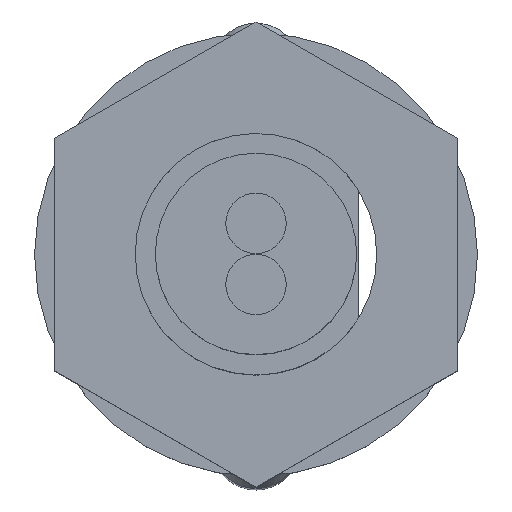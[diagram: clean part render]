
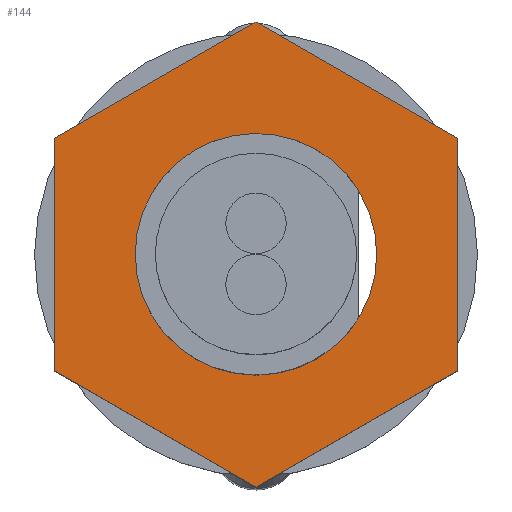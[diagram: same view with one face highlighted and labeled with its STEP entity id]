
A CAD part, top view. The second image highlights one B-rep face of the part: STEP entity #144.
In plain terms, the highlighted planar face has unit normal (0, 0, 1) as drawn and (-1, 0, 0) by its records, which use the part's own axes.
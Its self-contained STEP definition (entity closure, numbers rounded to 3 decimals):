
#125 = EDGE_CURVE ( 'NONE', #137, #126, #731, .T. ) ;
#126 = VERTEX_POINT ( 'NONE', #732 ) ;
#132 = ORIENTED_EDGE ( 'NONE', *, *, #133, .T. ) ;
#133 = EDGE_CURVE ( 'NONE', #134, #135, #786, .T. ) ;
#134 = VERTEX_POINT ( 'NONE', #782 ) ;
#135 = VERTEX_POINT ( 'NONE', #781 ) ;
#137 = VERTEX_POINT ( 'NONE', #780 ) ;
#144 = ADVANCED_FACE ( 'NONE', ( #764, #763 ), #762, .F. ) ;
#145 = EDGE_LOOP ( 'NONE', ( #132, #198, #201, #204, #186, #189 ) ) ;
#184 = EDGE_CURVE ( 'NONE', #203, #185, #892, .T. ) ;
#185 = VERTEX_POINT ( 'NONE', #888 ) ;
#186 = ORIENTED_EDGE ( 'NONE', *, *, #187, .T. ) ;
#187 = EDGE_CURVE ( 'NONE', #185, #188, #887, .T. ) ;
#188 = VERTEX_POINT ( 'NONE', #883 ) ;
#189 = ORIENTED_EDGE ( 'NONE', *, *, #190, .T. ) ;
#190 = EDGE_CURVE ( 'NONE', #188, #134, #882, .T. ) ;
#191 = EDGE_LOOP ( 'NONE', ( #192, #193 ) ) ;
#192 = ORIENTED_EDGE ( 'NONE', *, *, #125, .F. ) ;
#193 = ORIENTED_EDGE ( 'NONE', *, *, #194, .F. ) ;
#194 = EDGE_CURVE ( 'NONE', #126, #137, #878, .T. ) ;
#198 = ORIENTED_EDGE ( 'NONE', *, *, #199, .T. ) ;
#199 = EDGE_CURVE ( 'NONE', #135, #200, #866, .T. ) ;
#200 = VERTEX_POINT ( 'NONE', #860 ) ;
#201 = ORIENTED_EDGE ( 'NONE', *, *, #202, .T. ) ;
#202 = EDGE_CURVE ( 'NONE', #200, #203, #925, .T. ) ;
#203 = VERTEX_POINT ( 'NONE', #921 ) ;
#204 = ORIENTED_EDGE ( 'NONE', *, *, #184, .T. ) ;
#727 = DIRECTION ( 'NONE',  ( 0., -1., 0. ) ) ;
#728 = DIRECTION ( 'NONE',  ( -1., 0., 0. ) ) ;
#729 = CARTESIAN_POINT ( 'NONE',  ( 8., 0., 0. ) ) ;
#730 = AXIS2_PLACEMENT_3D ( 'NONE', #729, #728, #727 ) ;
#731 = CIRCLE ( 'NONE', #730, 3. ) ;
#732 = CARTESIAN_POINT ( 'NONE',  ( 8., -3., 0. ) ) ;
#760 = CARTESIAN_POINT ( 'NONE',  ( 8., 0., 10. ) ) ;
#761 = AXIS2_PLACEMENT_3D ( 'NONE', #760, #825, #824 ) ;
#762 = PLANE ( 'NONE',  #761 ) ;
#763 = FACE_BOUND ( 'NONE', #191, .T. ) ;
#764 = FACE_OUTER_BOUND ( 'NONE', #145, .T. ) ;
#780 = CARTESIAN_POINT ( 'NONE',  ( 8., 3., 0. ) ) ;
#781 = CARTESIAN_POINT ( 'NONE',  ( 8., 5.774, 0. ) ) ;
#782 = CARTESIAN_POINT ( 'NONE',  ( 8., 2.887, 5. ) ) ;
#783 = DIRECTION ( 'NONE',  ( 0., 0.5, -0.866 ) ) ;
#784 = VECTOR ( 'NONE', #783, 1000. ) ;
#785 = CARTESIAN_POINT ( 'NONE',  ( 8., 2.887, 5. ) ) ;
#786 = LINE ( 'NONE', #785, #784 ) ;
#824 = DIRECTION ( 'NONE',  ( 0., 1., 0. ) ) ;
#825 = DIRECTION ( 'NONE',  ( 1., 0., 0. ) ) ;
#860 = CARTESIAN_POINT ( 'NONE',  ( 8., 2.887, -5. ) ) ;
#863 = DIRECTION ( 'NONE',  ( 0., -0.5, -0.866 ) ) ;
#864 = VECTOR ( 'NONE', #863, 1000. ) ;
#865 = CARTESIAN_POINT ( 'NONE',  ( 8., 5.774, 0. ) ) ;
#866 = LINE ( 'NONE', #865, #864 ) ;
#874 = DIRECTION ( 'NONE',  ( 0., -1., 0. ) ) ;
#875 = DIRECTION ( 'NONE',  ( -1., 0., 0. ) ) ;
#876 = CARTESIAN_POINT ( 'NONE',  ( 8., 0., 0. ) ) ;
#877 = AXIS2_PLACEMENT_3D ( 'NONE', #876, #875, #874 ) ;
#878 = CIRCLE ( 'NONE', #877, 3. ) ;
#879 = DIRECTION ( 'NONE',  ( 0., 1., 0. ) ) ;
#880 = VECTOR ( 'NONE', #879, 1000. ) ;
#881 = CARTESIAN_POINT ( 'NONE',  ( 8., -2.887, 5. ) ) ;
#882 = LINE ( 'NONE', #881, #880 ) ;
#883 = CARTESIAN_POINT ( 'NONE',  ( 8., -2.887, 5. ) ) ;
#884 = DIRECTION ( 'NONE',  ( 0., 0.5, 0.866 ) ) ;
#885 = VECTOR ( 'NONE', #884, 1000. ) ;
#886 = CARTESIAN_POINT ( 'NONE',  ( 8., -5.774, 0. ) ) ;
#887 = LINE ( 'NONE', #886, #885 ) ;
#888 = CARTESIAN_POINT ( 'NONE',  ( 8., -5.774, 0. ) ) ;
#889 = DIRECTION ( 'NONE',  ( 0., -0.5, 0.866 ) ) ;
#890 = VECTOR ( 'NONE', #889, 1000. ) ;
#891 = CARTESIAN_POINT ( 'NONE',  ( 8., -2.887, -5. ) ) ;
#892 = LINE ( 'NONE', #891, #890 ) ;
#921 = CARTESIAN_POINT ( 'NONE',  ( 8., -2.887, -5. ) ) ;
#922 = DIRECTION ( 'NONE',  ( 0., -1., 0. ) ) ;
#923 = VECTOR ( 'NONE', #922, 1000. ) ;
#924 = CARTESIAN_POINT ( 'NONE',  ( 8., 2.887, -5. ) ) ;
#925 = LINE ( 'NONE', #924, #923 ) ;
